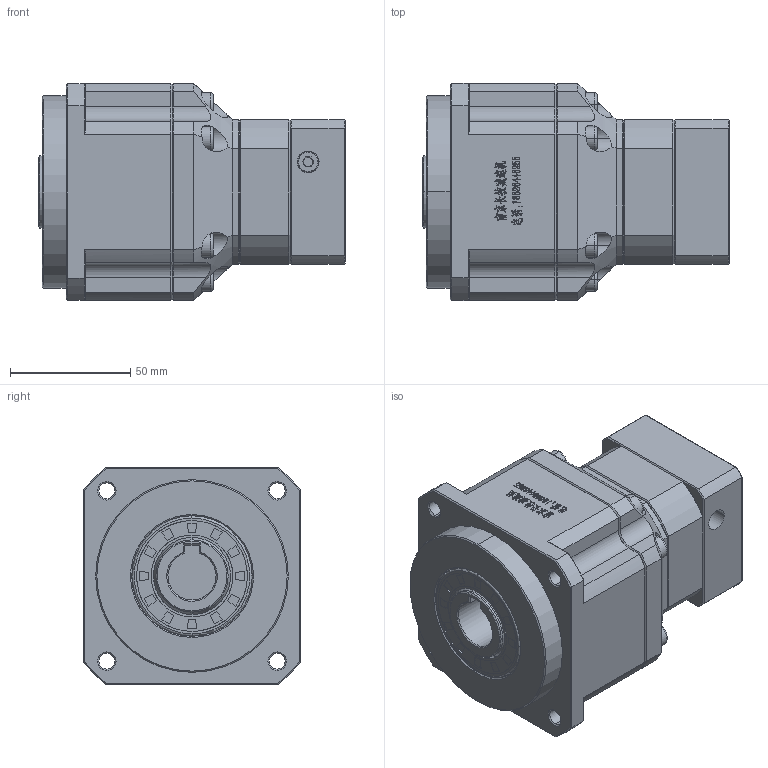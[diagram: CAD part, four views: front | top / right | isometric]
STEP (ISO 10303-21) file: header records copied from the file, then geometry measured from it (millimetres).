
FILE_DESCRIPTION (( 'STEP AP214' ), '1' );
FILE_NAME ('ZPB090-K20-L2-P1-14-50-70-M4.step', '2024-06-07T18:25:30', ( 'Windows 蚚誧' ), ( 'Organization' ), 'SwSTEP 2.0', 'SolidWorks 2016', '' );
FILE_SCHEMA (( 'AUTOMOTIVE_DESIGN' ));
Length unit declared in the file: millimetre
Products named in the file (1): ZPB090-K20-L2-P1-14-50-70-M4
Bounding box: 127.5 x 90 x 90 mm (x, y, z)
Surface area: 66081.4 mm2 (no closed solid volume)
Topology: 0 solids, 33 shells, 2060 faces, 5435 edges, 3441 vertices
Faces by surface type: plane 1078, bspline 376, cone 299, cylinder 285, torus 22
Entity records: 96188 total; most frequent: CARTESIAN_POINT 43901, ORIENTED_EDGE 10833, DIRECTION 8379, EDGE_CURVE 5435, VERTEX_POINT 3441, VECTOR 3421, LINE 3421, AXIS2_PLACEMENT_3D 2479
